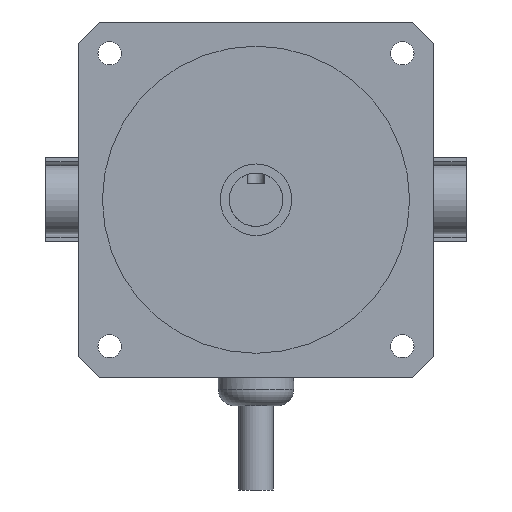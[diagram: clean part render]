
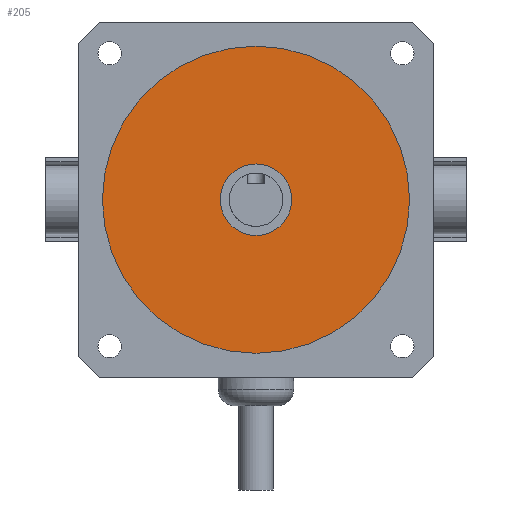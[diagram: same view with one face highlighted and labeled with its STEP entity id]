
A CAD part, front view. The second image highlights one B-rep face of the part: STEP entity #205.
In plain terms, the highlighted planar face has unit normal (0, -1, 0).
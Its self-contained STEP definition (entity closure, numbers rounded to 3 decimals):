
#152=PLANE('',#1260);
#205=ADVANCED_FACE('',(#503,#504),#152,.T.);
#503=FACE_BOUND('',#581,.T.);
#504=FACE_BOUND('',#582,.T.);
#581=EDGE_LOOP('',(#740));
#582=EDGE_LOOP('',(#741));
#740=ORIENTED_EDGE('',*,*,#1094,.F.);
#741=ORIENTED_EDGE('',*,*,#1093,.T.);
#981=VERTEX_POINT('',#1807);
#982=VERTEX_POINT('',#1810);
#1093=EDGE_CURVE('',#981,#981,#1199,.T.);
#1094=EDGE_CURVE('',#982,#982,#1200,.T.);
#1199=CIRCLE('',#1257,36.5);
#1200=CIRCLE('',#1259,8.5);
#1257=AXIS2_PLACEMENT_3D('',#1806,#1438,#1439);
#1259=AXIS2_PLACEMENT_3D('',#1809,#1442,#1443);
#1260=AXIS2_PLACEMENT_3D('',#1811,#1444,#1445);
#1438=DIRECTION('',(0.,-1.,0.));
#1439=DIRECTION('',(1.,0.,0.));
#1442=DIRECTION('',(0.,-1.,0.));
#1443=DIRECTION('',(1.,0.,0.));
#1444=DIRECTION('',(0.,-1.,0.));
#1445=DIRECTION('',(0.,0.,-1.));
#1806=CARTESIAN_POINT('',(0.,-12.5,0.));
#1807=CARTESIAN_POINT('',(36.5,-12.5,0.));
#1809=CARTESIAN_POINT('',(0.,-12.5,0.));
#1810=CARTESIAN_POINT('',(8.5,-12.5,0.));
#1811=CARTESIAN_POINT('',(0.,-12.5,0.));
